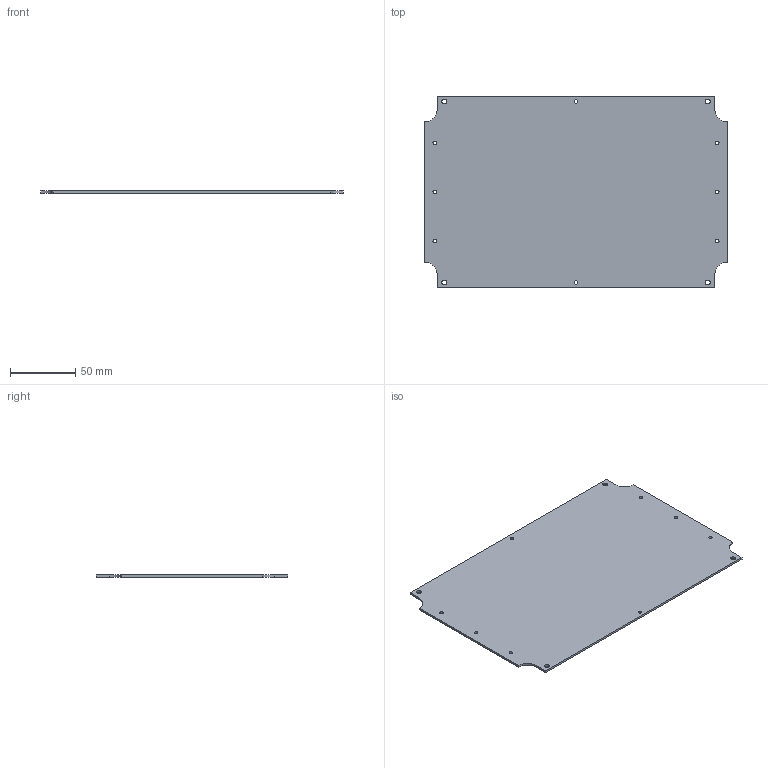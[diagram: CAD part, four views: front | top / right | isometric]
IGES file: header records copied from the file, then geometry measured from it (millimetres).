
Global section: file name: No Iges File Name specified; native system: AutoDesk Inventor R11.0; preprocessor: AutoDesk Inventor Iges Exporter R11.0; author: No Author specified; organization: No Organization specified; date: 20060713.143436; units: millimetre
Bounding box: 231.47 x 146.74 x 1.63 mm (x, y, z)
Volume: 53969.9 mm3; surface area: 67793.5 mm2
Topology: 1 solids, 1 shells, 38 faces, 108 edges, 72 vertices
Faces by surface type: revolution 28, plane 10
